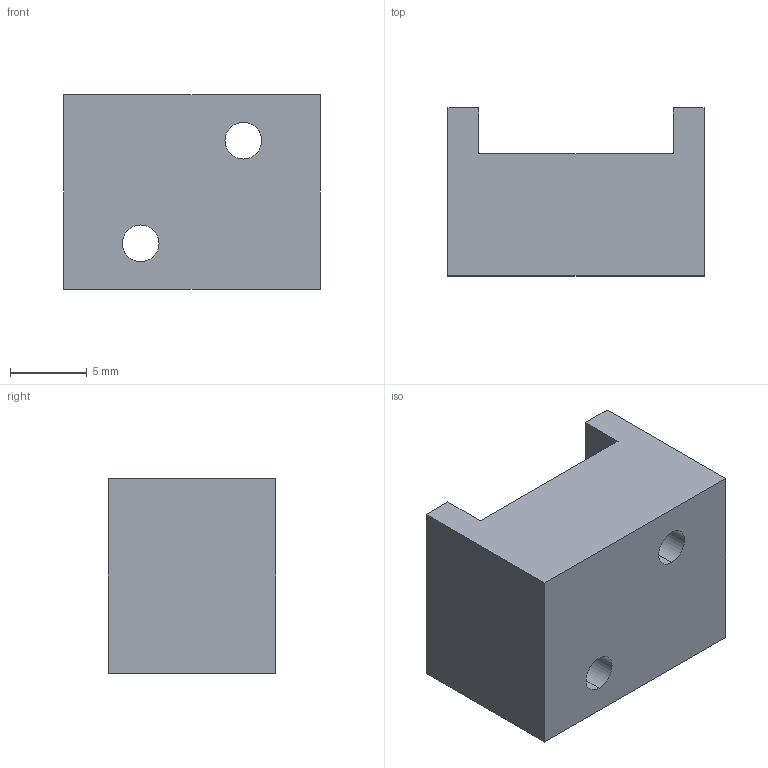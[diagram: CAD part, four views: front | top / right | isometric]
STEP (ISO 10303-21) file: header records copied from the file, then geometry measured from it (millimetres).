
FILE_DESCRIPTION (( 'STEP AP214' ), '1' );
FILE_NAME ('疏え炵苀_PBS假蚾釱_V2.STEP', '2026-06-22T02:25:13', ( '' ), ( '' ), 'SwSTEP 2.0', 'SolidWorks 2022', '' );
FILE_SCHEMA (( 'AUTOMOTIVE_DESIGN' ));
Length unit declared in the file: millimetre
Products named in the file (1): 波片系统_PBS安装座_V2
Bounding box: 16.7 x 10.95 x 12.7 mm (x, y, z)
Volume: 1714.3 mm3; surface area: 1203.6 mm2
Topology: 1 solids, 1 shells, 22 faces, 54 edges, 36 vertices
Faces by surface type: plane 12, cylinder 10
Entity records: 704 total; most frequent: DIRECTION 120, CARTESIAN_POINT 113, ORIENTED_EDGE 108, EDGE_CURVE 54, AXIS2_PLACEMENT_3D 43, VERTEX_POINT 36, LINE 34, VECTOR 34
